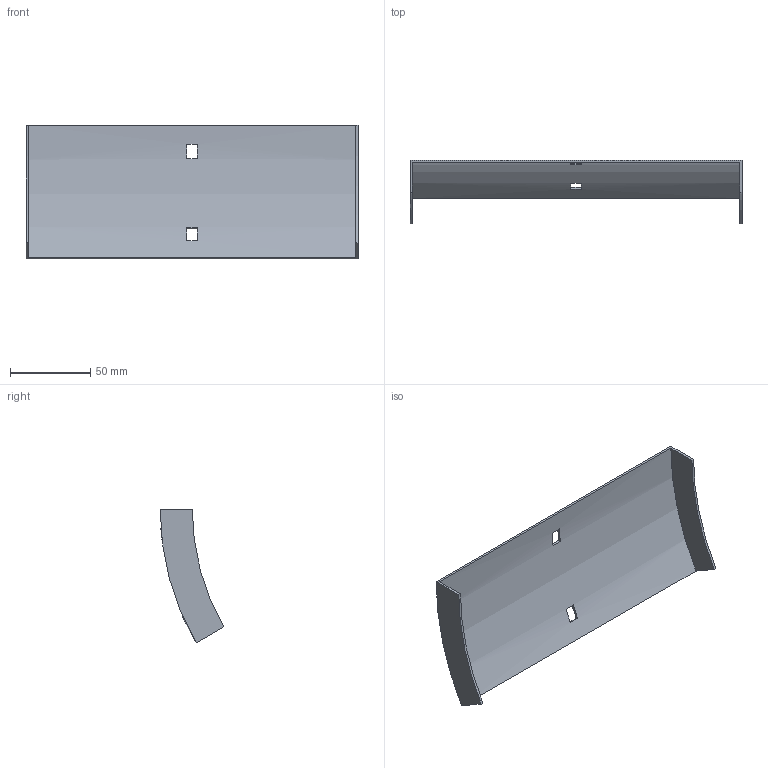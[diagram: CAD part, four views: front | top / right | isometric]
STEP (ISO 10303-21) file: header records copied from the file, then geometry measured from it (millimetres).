
FILE_DESCRIPTION (( 'STEP AP214' ), '1' );
FILE_NAME ('35N1H200.step', '2025-02-21T09:12:31', ( '' ), ( '' ), 'SwSTEP 2.0', 'SolidWorks 2023', '' );
FILE_SCHEMA (( 'AUTOMOTIVE_DESIGN' ));
Length unit declared in the file: millimetre
Products named in the file (1): 35N1H200
Bounding box: 207 x 39.69 x 83.5 mm (x, y, z)
Volume: 31392.7 mm3; surface area: 42914.5 mm2
Topology: 1 solids, 1 shells, 18 faces, 48 edges, 32 vertices
Faces by surface type: plane 14, cylinder 4
Entity records: 599 total; most frequent: DIRECTION 102, CARTESIAN_POINT 99, ORIENTED_EDGE 96, EDGE_CURVE 48, AXIS2_PLACEMENT_3D 35, VERTEX_POINT 32, LINE 32, VECTOR 32
